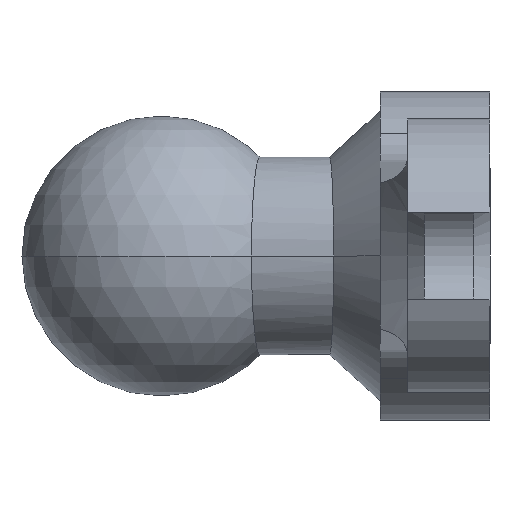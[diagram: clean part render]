
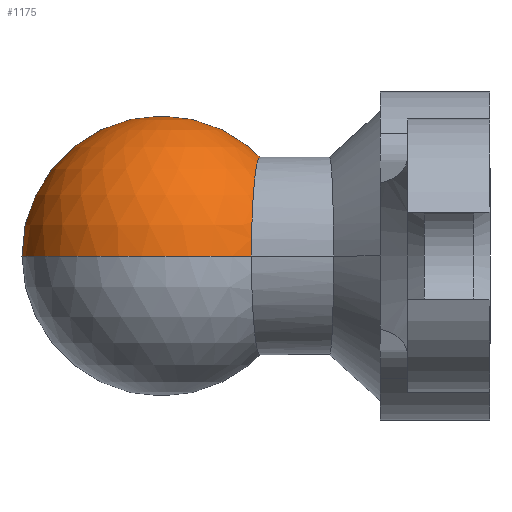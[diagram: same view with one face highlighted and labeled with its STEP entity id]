
A CAD part, front view. The second image highlights one B-rep face of the part: STEP entity #1175.
In plain terms, the highlighted spherical face has radius 2.55 mm.
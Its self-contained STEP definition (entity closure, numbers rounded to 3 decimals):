
#129 = CARTESIAN_POINT ( 'NONE',  ( -6.525, 15.571, 0. ) ) ;
#296 = CARTESIAN_POINT ( 'NONE',  ( -3.985, 15.349, 0. ) ) ;
#312 = CARTESIAN_POINT ( 'NONE',  ( -2.189, 15.191, 0. ) ) ;
#373 = DIRECTION ( 'NONE',  ( 0., 1., 0. ) ) ;
#419 = ORIENTED_EDGE ( 'NONE', *, *, #1385, .T. ) ;
#511 = CARTESIAN_POINT ( 'NONE',  ( -2.031, 16.988, 0. ) ) ;
#592 = FACE_OUTER_BOUND ( 'NONE', #848, .T. ) ;
#632 = VERTEX_POINT ( 'NONE', #511 ) ;
#633 = VERTEX_POINT ( 'NONE', #129 ) ;
#642 = CARTESIAN_POINT ( 'NONE',  ( -2.346, 13.395, 0. ) ) ;
#779 = DIRECTION ( 'NONE',  ( 0., 0., 1. ) ) ;
#796 = DIRECTION ( 'NONE',  ( 1., 0., 0. ) ) ;
#835 = DIRECTION ( 'NONE',  ( 0.087, 0.996, 0. ) ) ;
#848 = EDGE_LOOP ( 'NONE', ( #1181, #419, #904 ) ) ;
#904 = ORIENTED_EDGE ( 'NONE', *, *, #1414, .T. ) ;
#970 = SPHERICAL_SURFACE ( 'NONE', #1565, 2.55 ) ;
#1073 = CARTESIAN_POINT ( 'NONE',  ( -3.985, 15.349, 0. ) ) ;
#1103 = VERTEX_POINT ( 'NONE', #642 ) ;
#1175 = ADVANCED_FACE ( 'NONE', ( #592 ), #970, .T. ) ;
#1181 = ORIENTED_EDGE ( 'NONE', *, *, #1242, .F. ) ;
#1188 = CIRCLE ( 'NONE', #1349, 2.55 ) ;
#1242 = EDGE_CURVE ( 'NONE', #1103, #633, #1305, .T. ) ;
#1305 = CIRCLE ( 'NONE', #1516, 2.55 ) ;
#1316 = DIRECTION ( 'NONE',  ( 0., 0., -1. ) ) ;
#1344 = DIRECTION ( 'NONE',  ( -0.996, 0.087, 0. ) ) ;
#1349 = AXIS2_PLACEMENT_3D ( 'NONE', #296, #779, #796 ) ;
#1385 = EDGE_CURVE ( 'NONE', #1103, #632, #1403, .T. ) ;
#1402 = DIRECTION ( 'NONE',  ( -0.087, -0.996, 0. ) ) ;
#1403 = CIRCLE ( 'NONE', #1449, 1.803 ) ;
#1414 = EDGE_CURVE ( 'NONE', #632, #633, #1188, .T. ) ;
#1429 = CARTESIAN_POINT ( 'NONE',  ( -3.985, 15.349, 0. ) ) ;
#1449 = AXIS2_PLACEMENT_3D ( 'NONE', #312, #1344, #1402 ) ;
#1516 = AXIS2_PLACEMENT_3D ( 'NONE', #1073, #1560, #373 ) ;
#1560 = DIRECTION ( 'NONE',  ( 0., 0., -1. ) ) ;
#1565 = AXIS2_PLACEMENT_3D ( 'NONE', #1429, #1316, #835 ) ;
